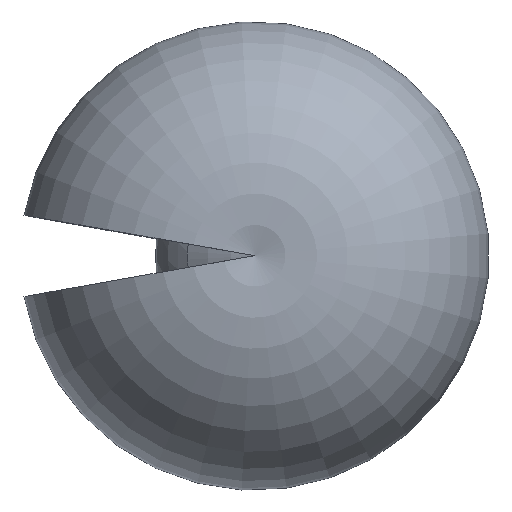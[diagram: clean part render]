
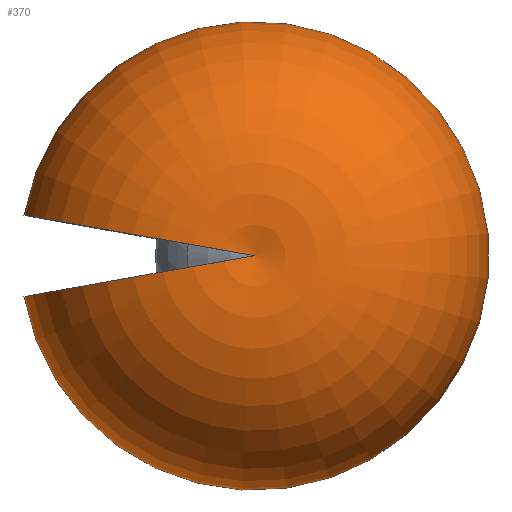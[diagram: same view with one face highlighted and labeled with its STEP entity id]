
A CAD part, top view. The second image highlights one B-rep face of the part: STEP entity #370.
In plain terms, the highlighted toroidal (fillet/blend) face has major radius 690 mm and minor radius 2508.88 mm.
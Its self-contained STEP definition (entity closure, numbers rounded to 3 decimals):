
#7 = ORIENTED_EDGE ( 'NONE', *, *, #225, .F. ) ;
#27 = CARTESIAN_POINT ( 'NONE',  ( 0., 0., 2942.136 ) ) ;
#64 = DIRECTION ( 'NONE',  ( 0., 0., 1. ) ) ;
#65 = DIRECTION ( 'NONE',  ( -1., 0., 0. ) ) ;
#73 = DIRECTION ( 'NONE',  ( -0.174, -0.985, 0. ) ) ;
#113 = EDGE_LOOP ( 'NONE', ( #516, #7, #523 ) ) ;
#117 = CARTESIAN_POINT ( 'NONE',  ( -1524.57, 268.823, -1827.58 ) ) ;
#121 = DIRECTION ( 'NONE',  ( 0.174, -0.985, 0. ) ) ;
#125 = DIRECTION ( 'NONE',  ( -1., 0., 0. ) ) ;
#128 = EDGE_CURVE ( 'NONE', #275, #458, #388, .T. ) ;
#169 = CIRCLE ( 'NONE', #479, 1548.089 ) ;
#174 = DIRECTION ( 'NONE',  ( 0., 0., -1. ) ) ;
#209 = FACE_OUTER_BOUND ( 'NONE', #113, .T. ) ;
#225 = EDGE_CURVE ( 'NONE', #275, #492, #281, .T. ) ;
#227 = AXIS2_PLACEMENT_3D ( 'NONE', #507, #73, #287 ) ;
#253 = CARTESIAN_POINT ( 'NONE',  ( 0., 0., 530. ) ) ;
#275 = VERTEX_POINT ( 'NONE', #27 ) ;
#276 = DIRECTION ( 'NONE',  ( 0., 0., -1. ) ) ;
#281 = CIRCLE ( 'NONE', #227, 2508.884 ) ;
#287 = DIRECTION ( 'NONE',  ( 0., 0., 1. ) ) ;
#338 = AXIS2_PLACEMENT_3D ( 'NONE', #253, #174, #125 ) ;
#370 = ADVANCED_FACE ( 'NONE', ( #209 ), #454, .T. ) ;
#373 = CARTESIAN_POINT ( 'NONE',  ( -679.517, -119.817, 530. ) ) ;
#388 = CIRCLE ( 'NONE', #509, 2508.884 ) ;
#454 = TOROIDAL_SURFACE ( 'NONE', #338, 690., 2508.884 ) ;
#458 = VERTEX_POINT ( 'NONE', #505 ) ;
#479 = AXIS2_PLACEMENT_3D ( 'NONE', #489, #276, #65 ) ;
#489 = CARTESIAN_POINT ( 'NONE',  ( 0., 0., -1827.58 ) ) ;
#492 = VERTEX_POINT ( 'NONE', #117 ) ;
#505 = CARTESIAN_POINT ( 'NONE',  ( -1524.57, -268.823, -1827.58 ) ) ;
#507 = CARTESIAN_POINT ( 'NONE',  ( -679.517, 119.817, 530. ) ) ;
#509 = AXIS2_PLACEMENT_3D ( 'NONE', #373, #121, #64 ) ;
#516 = ORIENTED_EDGE ( 'NONE', *, *, #538, .F. ) ;
#523 = ORIENTED_EDGE ( 'NONE', *, *, #128, .T. ) ;
#538 = EDGE_CURVE ( 'NONE', #492, #458, #169, .T. ) ;
